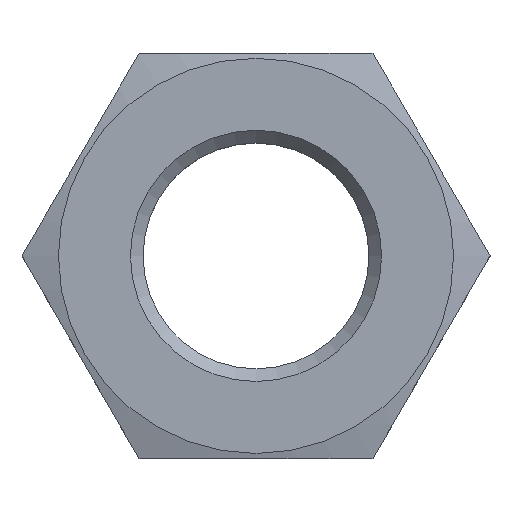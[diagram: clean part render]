
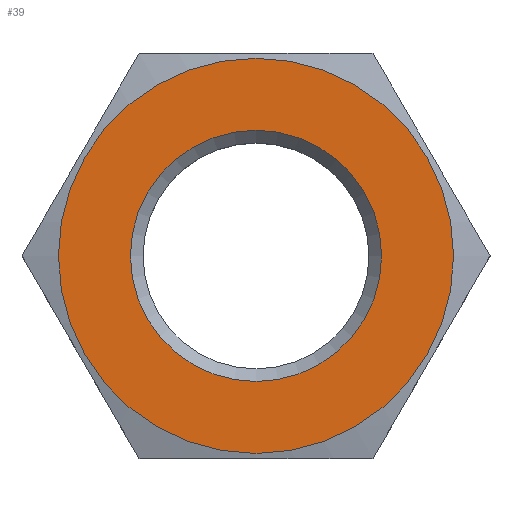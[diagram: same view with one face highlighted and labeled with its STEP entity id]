
A CAD part, top view. The second image highlights one B-rep face of the part: STEP entity #39.
In plain terms, the highlighted planar face has unit normal (0, 0, 1).
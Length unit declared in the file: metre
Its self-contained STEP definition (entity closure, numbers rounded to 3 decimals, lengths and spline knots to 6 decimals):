
#39 = ADVANCED_FACE( '', ( #84, #85 ), #86, .T. );
#84 = FACE_BOUND( '', #137, .T. );
#85 = FACE_OUTER_BOUND( '', #138, .T. );
#86 = PLANE( '', #139 );
#137 = EDGE_LOOP( '', ( #191 ) );
#138 = EDGE_LOOP( '', ( #192 ) );
#139 = AXIS2_PLACEMENT_3D( '', #193, #194, #195 );
#191 = ORIENTED_EDGE( '', *, *, #288, .T. );
#192 = ORIENTED_EDGE( '', *, *, #286, .T. );
#193 = CARTESIAN_POINT( '', ( -0.006928, 0.004, 0.0027 ) );
#194 = DIRECTION( '', ( 0., 0., 1. ) );
#195 = DIRECTION( '', ( 1., 0., 0. ) );
#286 = EDGE_CURVE( '', #329, #329, #330, .T. );
#288 = EDGE_CURVE( '', #332, #332, #333, .F. );
#329 = VERTEX_POINT( '', #414 );
#330 = CIRCLE( '', #415, 0.0039 );
#332 = VERTEX_POINT( '', #417 );
#333 = CIRCLE( '', #418, 0.00248 );
#414 = CARTESIAN_POINT( '', ( 0.0039, 0., 0.0027 ) );
#415 = AXIS2_PLACEMENT_3D( '', #492, #493, #494 );
#417 = CARTESIAN_POINT( '', ( 0.00248, 0., 0.0027 ) );
#418 = AXIS2_PLACEMENT_3D( '', #495, #496, #497 );
#492 = CARTESIAN_POINT( '', ( 0., 0., 0.0027 ) );
#493 = DIRECTION( '', ( 0., 0., 1. ) );
#494 = DIRECTION( '', ( 1., 0., 0. ) );
#495 = CARTESIAN_POINT( '', ( 0., 0., 0.0027 ) );
#496 = DIRECTION( '', ( 0., 0., 1. ) );
#497 = DIRECTION( '', ( 1., 0., 0. ) );
